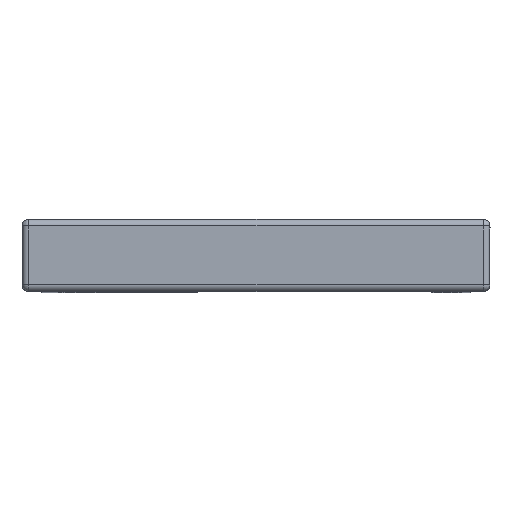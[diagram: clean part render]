
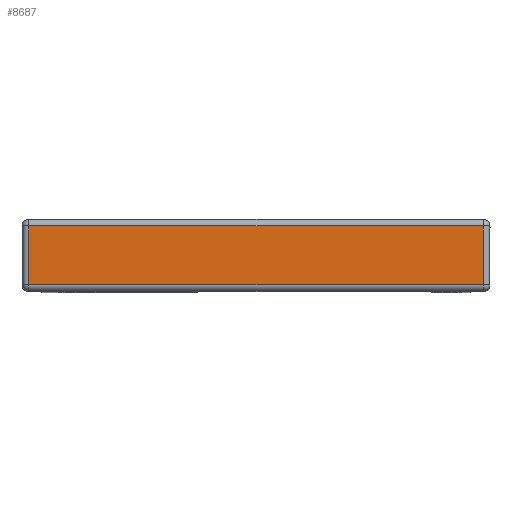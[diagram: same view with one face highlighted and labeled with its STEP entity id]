
A CAD part, top view. The second image highlights one B-rep face of the part: STEP entity #8687.
In plain terms, the highlighted planar face has unit normal (0, 0, 1).
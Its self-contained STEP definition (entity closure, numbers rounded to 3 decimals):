
#309=DIRECTION('',(1.,0.,0.));
#310=VECTOR('',#309,13.9);
#311=CARTESIAN_POINT('',(-6.95,-0.9,2.));
#312=LINE('',#311,#310);
#317=DIRECTION('',(0.,1.,0.));
#318=VECTOR('',#317,1.8);
#319=CARTESIAN_POINT('',(6.95,-0.9,2.));
#320=LINE('',#319,#318);
#493=DIRECTION('',(-1.,0.,0.));
#494=VECTOR('',#493,13.9);
#495=CARTESIAN_POINT('',(6.95,0.9,2.));
#496=LINE('',#495,#494);
#532=DIRECTION('',(0.,-1.,0.));
#533=VECTOR('',#532,1.8);
#534=CARTESIAN_POINT('',(-6.95,0.9,2.));
#535=LINE('',#534,#533);
#7500=CARTESIAN_POINT('',(6.95,-0.9,2.));
#7501=VERTEX_POINT('',#7500);
#7502=CARTESIAN_POINT('',(-6.95,-0.9,2.));
#7503=VERTEX_POINT('',#7502);
#7504=CARTESIAN_POINT('',(6.95,0.9,2.));
#7505=VERTEX_POINT('',#7504);
#7506=CARTESIAN_POINT('',(-6.95,0.9,2.));
#7507=VERTEX_POINT('',#7506);
#8673=CARTESIAN_POINT('',(-7.15,-1.1,2.));
#8674=DIRECTION('',(0.,0.,1.));
#8675=DIRECTION('',(1.,0.,0.));
#8676=AXIS2_PLACEMENT_3D('',#8673,#8674,#8675);
#8677=PLANE('',#8676);
#8679=ORIENTED_EDGE('',*,*,#8678,.F.);
#8680=ORIENTED_EDGE('',*,*,#8663,.F.);
#8682=ORIENTED_EDGE('',*,*,#8681,.F.);
#8684=ORIENTED_EDGE('',*,*,#8683,.F.);
#8685=EDGE_LOOP('',(#8679,#8680,#8682,#8684));
#8686=FACE_OUTER_BOUND('',#8685,.F.);
#8687=ADVANCED_FACE('',(#8686),#8677,.T.);
#8663=EDGE_CURVE('',#7503,#7501,#312,.T.);
#8678=EDGE_CURVE('',#7501,#7505,#320,.T.);
#8681=EDGE_CURVE('',#7507,#7503,#535,.T.);
#8683=EDGE_CURVE('',#7505,#7507,#496,.T.);
